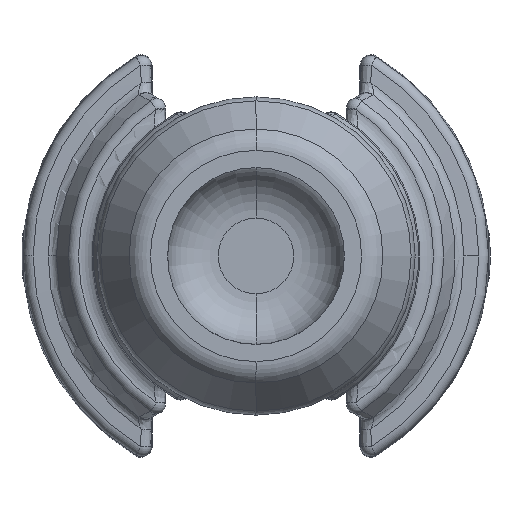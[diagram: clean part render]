
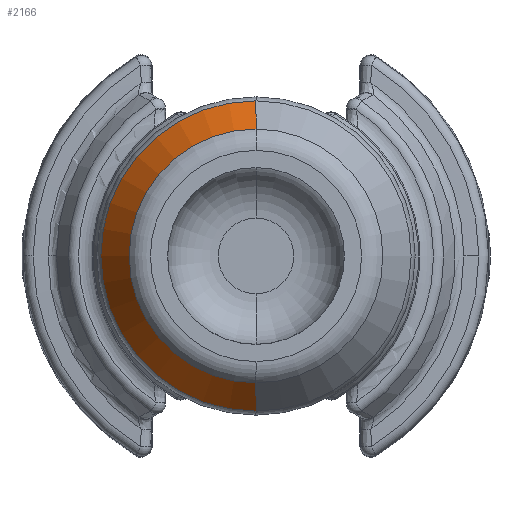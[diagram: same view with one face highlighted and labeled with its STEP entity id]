
A CAD part, front view. The second image highlights one B-rep face of the part: STEP entity #2166.
In plain terms, the highlighted conical face has half-angle 32.597 degrees and reference radius 3.665 mm.
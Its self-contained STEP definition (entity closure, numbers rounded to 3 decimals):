
#203 = DIRECTION ( 'NONE',  ( 0., 0., -1. ) ) ;
#205 = VECTOR ( 'NONE', #2515, 1000. ) ;
#615 = AXIS2_PLACEMENT_3D ( 'NONE', #2201, #9532, #1303 ) ;
#626 = VERTEX_POINT ( 'NONE', #3478 ) ;
#783 = EDGE_LOOP ( 'NONE', ( #10019, #1477, #3258, #9447 ) ) ;
#843 = CARTESIAN_POINT ( 'NONE',  ( 0., -5.019, -2.511 ) ) ;
#916 = CARTESIAN_POINT ( 'NONE',  ( 0., -5.019, 0. ) ) ;
#1303 = DIRECTION ( 'NONE',  ( 0., 0., 1. ) ) ;
#1477 = ORIENTED_EDGE ( 'NONE', *, *, #6727, .T. ) ;
#2079 = CARTESIAN_POINT ( 'NONE',  ( 0., -3.216, 0. ) ) ;
#2166 = ADVANCED_FACE ( 'NONE', ( #9577 ), #11233, .T. ) ;
#2201 = CARTESIAN_POINT ( 'NONE',  ( 0., -4.144, 0. ) ) ;
#2515 = DIRECTION ( 'NONE',  ( 0., 0.842, 0.539 ) ) ;
#3124 = CIRCLE ( 'NONE', #615, 3.071 ) ;
#3258 = ORIENTED_EDGE ( 'NONE', *, *, #4610, .F. ) ;
#3379 = AXIS2_PLACEMENT_3D ( 'NONE', #2079, #5023, #203 ) ;
#3478 = CARTESIAN_POINT ( 'NONE',  ( 0., -4.144, -3.071 ) ) ;
#4390 = LINE ( 'NONE', #10758, #6257 ) ;
#4610 = EDGE_CURVE ( 'NONE', #626, #6212, #3124, .T. ) ;
#5023 = DIRECTION ( 'NONE',  ( 0., 1., 0. ) ) ;
#5685 = CIRCLE ( 'NONE', #9886, 2.511 ) ;
#6212 = VERTEX_POINT ( 'NONE', #7639 ) ;
#6257 = VECTOR ( 'NONE', #6301, 1000. ) ;
#6301 = DIRECTION ( 'NONE',  ( 0., 0.842, -0.539 ) ) ;
#6727 = EDGE_CURVE ( 'NONE', #7722, #6212, #7136, .T. ) ;
#7136 = LINE ( 'NONE', #10799, #205 ) ;
#7639 = CARTESIAN_POINT ( 'NONE',  ( 0., -4.144, 3.071 ) ) ;
#7722 = VERTEX_POINT ( 'NONE', #11290 ) ;
#8516 = EDGE_CURVE ( 'NONE', #7722, #8958, #5685, .T. ) ;
#8958 = VERTEX_POINT ( 'NONE', #843 ) ;
#9093 = DIRECTION ( 'NONE',  ( 0., 0., -1. ) ) ;
#9447 = ORIENTED_EDGE ( 'NONE', *, *, #10687, .F. ) ;
#9532 = DIRECTION ( 'NONE',  ( 0., 1., 0. ) ) ;
#9577 = FACE_OUTER_BOUND ( 'NONE', #783, .T. ) ;
#9886 = AXIS2_PLACEMENT_3D ( 'NONE', #916, #10953, #9093 ) ;
#10019 = ORIENTED_EDGE ( 'NONE', *, *, #8516, .F. ) ;
#10687 = EDGE_CURVE ( 'NONE', #8958, #626, #4390, .T. ) ;
#10758 = CARTESIAN_POINT ( 'NONE',  ( 0., -3.216, -3.665 ) ) ;
#10799 = CARTESIAN_POINT ( 'NONE',  ( 0., -3.216, 3.665 ) ) ;
#10953 = DIRECTION ( 'NONE',  ( 0., -1., 0. ) ) ;
#11233 = CONICAL_SURFACE ( 'NONE', #3379, 3.665, 0.569 ) ;
#11290 = CARTESIAN_POINT ( 'NONE',  ( 0., -5.019, 2.511 ) ) ;
